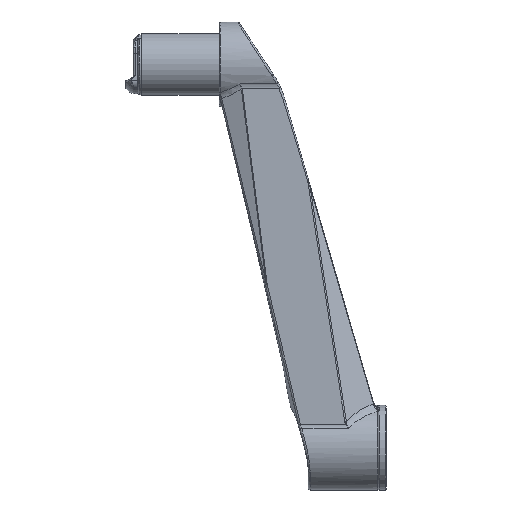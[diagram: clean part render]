
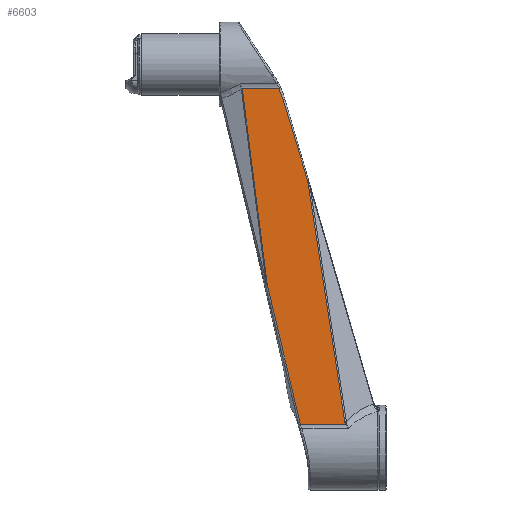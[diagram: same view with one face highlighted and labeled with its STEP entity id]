
A CAD part, left-side view. The second image highlights one B-rep face of the part: STEP entity #6603.
In plain terms, the highlighted planar face has unit normal (-1, 0, 0.001).
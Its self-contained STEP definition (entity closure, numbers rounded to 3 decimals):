
#1112=CARTESIAN_POINT('',(-19.874,38.214,144.813));
#1113=CARTESIAN_POINT('',(-19.861,42.532,159.601));
#1114=CARTESIAN_POINT('',(-19.848,47.33,174.248));
#1115=CARTESIAN_POINT('',(-19.835,51.648,189.035));
#1117=DIRECTION('',(0.001,0.152,0.988));
#1118=VECTOR('',#1117,132.46);
#1119=CARTESIAN_POINT('',(-19.988,18.064,13.895));
#1120=LINE('',#1119,#1118);
#1121=CARTESIAN_POINT('',(-19.989,17.68,12.627));
#1122=CARTESIAN_POINT('',(-19.989,17.878,13.028));
#1123=CARTESIAN_POINT('',(-19.988,17.996,13.455));
#1124=CARTESIAN_POINT('',(-19.988,18.064,13.895));
#1126=DIRECTION('',(-0.001,-0.231,-0.973));
#1127=VECTOR('',#1126,78.112);
#1128=CARTESIAN_POINT('',(-19.923,60.274,88.622));
#1129=LINE('',#1128,#1127);
#1130=DIRECTION('',(-0.001,-0.126,-0.992));
#1131=VECTOR('',#1130,107.151);
#1132=CARTESIAN_POINT('',(-19.83,73.804,194.915));
#1133=LINE('',#1132,#1131);
#1134=CARTESIAN_POINT('',(-19.83,73.886,195.305));
#1135=CARTESIAN_POINT('',(-19.83,73.847,195.177));
#1136=CARTESIAN_POINT('',(-19.83,73.82,195.047));
#1137=CARTESIAN_POINT('',(-19.83,73.804,194.915));
#1139=CARTESIAN_POINT('',(-19.835,51.648,189.035));
#1140=CARTESIAN_POINT('',(-19.833,52.273,191.174));
#1141=CARTESIAN_POINT('',(-19.831,53.044,193.271));
#1142=CARTESIAN_POINT('',(-19.83,53.953,195.305));
#1144=DIRECTION('',(0.,1.,0.));
#1145=VECTOR('',#1144,24.53);
#1146=CARTESIAN_POINT('',(-19.989,17.68,12.627));
#1147=LINE('',#1146,#1145);
#2550=DIRECTION('',(0.,-1.,0.));
#2551=VECTOR('',#2550,19.933);
#2552=CARTESIAN_POINT('',(-19.83,73.886,195.305));
#2553=LINE('',#2552,#2551);
#3829=CARTESIAN_POINT('',(-19.83,73.804,194.915));
#3830=CARTESIAN_POINT('',(-19.923,60.274,88.622));
#3831=VERTEX_POINT('',#3829);
#3832=VERTEX_POINT('',#3830);
#4138=VERTEX_POINT('',#1112);
#4139=VERTEX_POINT('',#1115);
#4140=VERTEX_POINT('',#1142);
#4141=CARTESIAN_POINT('',(-19.83,73.886,195.305));
#4142=VERTEX_POINT('',#4141);
#4145=VERTEX_POINT('',#1121);
#4146=VERTEX_POINT('',#1124);
#4162=CARTESIAN_POINT('',(-19.989,42.21,12.627));
#4163=VERTEX_POINT('',#4162);
#6581=CARTESIAN_POINT('',(-20.,86.212,0.));
#6582=DIRECTION('',(-1.,0.,0.001));
#6583=DIRECTION('',(0.001,0.,1.));
#6584=AXIS2_PLACEMENT_3D('',#6581,#6582,#6583);
#6585=PLANE('',#6584);
#6586=ORIENTED_EDGE('',*,*,#6573,.F.);
#6587=ORIENTED_EDGE('',*,*,#6248,.F.);
#6588=ORIENTED_EDGE('',*,*,#6235,.F.);
#6590=ORIENTED_EDGE('',*,*,#6589,.T.);
#6592=ORIENTED_EDGE('',*,*,#6591,.F.);
#6594=ORIENTED_EDGE('',*,*,#6593,.F.);
#6596=ORIENTED_EDGE('',*,*,#6595,.F.);
#6598=ORIENTED_EDGE('',*,*,#6597,.T.);
#6600=ORIENTED_EDGE('',*,*,#6599,.F.);
#6601=EDGE_LOOP('',(#6586,#6587,#6588,#6590,#6592,#6594,#6596,#6598,#6600));
#6602=FACE_OUTER_BOUND('',#6601,.F.);
#6603=ADVANCED_FACE('',(#6602),#6585,.T.);
#1116=B_SPLINE_CURVE_WITH_KNOTS('',3,(#1112,#1113,#1114,#1115),.UNSPECIFIED.,
.F.,.F.,(4,4),(0.,1.),.UNSPECIFIED.);
#1125=B_SPLINE_CURVE_WITH_KNOTS('',3,(#1121,#1122,#1123,#1124),.UNSPECIFIED.,
.F.,.F.,(4,4),(0.,1.),.UNSPECIFIED.);
#1138=B_SPLINE_CURVE_WITH_KNOTS('',3,(#1134,#1135,#1136,#1137),.UNSPECIFIED.,
.F.,.F.,(4,4),(0.,1.),.UNSPECIFIED.);
#1143=B_SPLINE_CURVE_WITH_KNOTS('',3,(#1139,#1140,#1141,#1142),.UNSPECIFIED.,
.F.,.F.,(4,4),(0.,1.),.UNSPECIFIED.);
#6235=EDGE_CURVE('',#4145,#4146,#1125,.T.);
#6248=EDGE_CURVE('',#4146,#4138,#1120,.T.);
#6573=EDGE_CURVE('',#4138,#4139,#1116,.T.);
#6589=EDGE_CURVE('',#4145,#4163,#1147,.T.);
#6591=EDGE_CURVE('',#3832,#4163,#1129,.T.);
#6593=EDGE_CURVE('',#3831,#3832,#1133,.T.);
#6595=EDGE_CURVE('',#4142,#3831,#1138,.T.);
#6597=EDGE_CURVE('',#4142,#4140,#2553,.T.);
#6599=EDGE_CURVE('',#4139,#4140,#1143,.T.);
